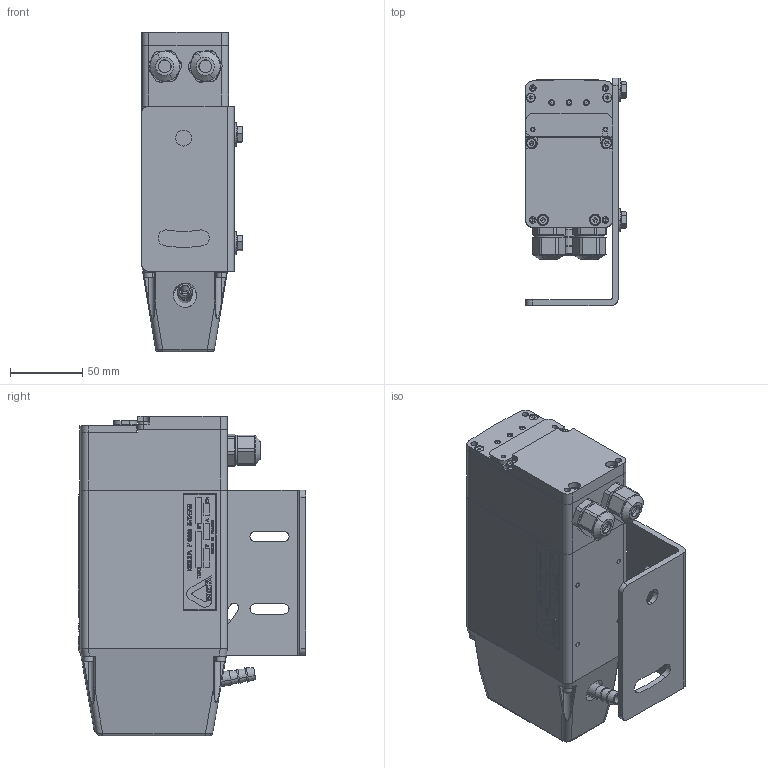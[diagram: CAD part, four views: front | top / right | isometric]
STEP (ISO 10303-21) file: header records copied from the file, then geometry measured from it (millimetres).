
FILE_DESCRIPTION (( 'STEP AP214' ), '1' );
FILE_NAME ('VFT1_LB_STEP_Mechanical_Dimesnions .STEP', '2017-03-06T10:09:27', ( '' ), ( '' ), 'SwSTEP 2.0', 'SolidWorks 2014', '' );
FILE_SCHEMA (( 'AUTOMOTIVE_DESIGN' ));
Length unit declared in the file: millimetre
Products named in the file (1): VFT1_LB_STEP_Mechanical_Dimesnions 
Bounding box: 69.61 x 157 x 220.5 mm (x, y, z)
Volume: 558498.2 mm3; surface area: 262061.8 mm2
Topology: 53 solids, 53 shells, 2307 faces, 5616 edges, 3496 vertices
Faces by surface type: plane 1178, cylinder 612, cone 219, bspline 149, torus 146, sphere 3
Entity records: 96991 total; most frequent: CARTESIAN_POINT 17180, DIRECTION 11163, ORIENTED_EDGE 11034, EDGE_CURVE 5517, AXIS2_PLACEMENT_3D 3879, VERTEX_POINT 3490, LINE 3405, VECTOR 3405
